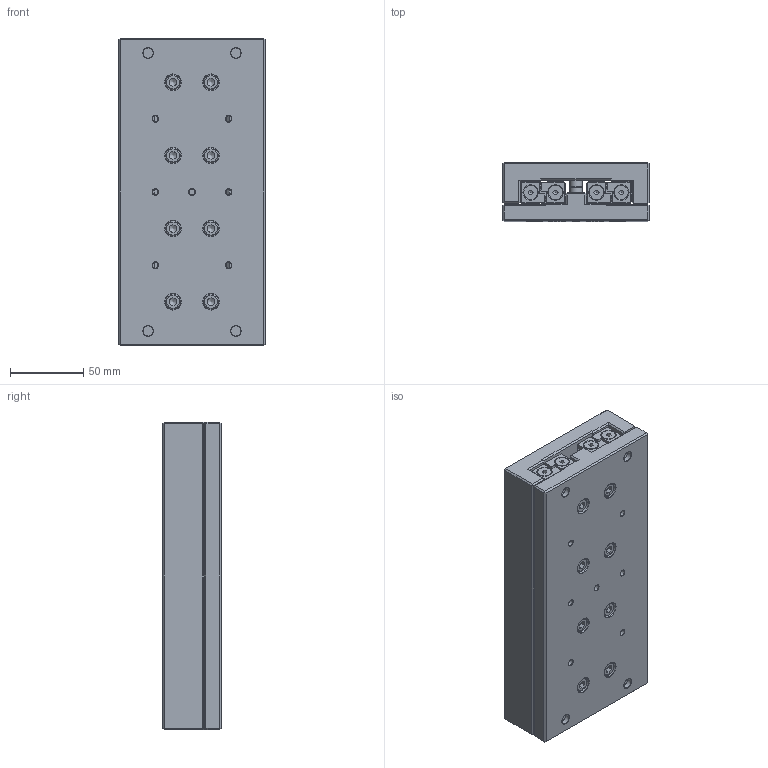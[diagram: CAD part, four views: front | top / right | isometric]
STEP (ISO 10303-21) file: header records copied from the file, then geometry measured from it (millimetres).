
FILE_DESCRIPTION(/* description */ ('Tavola TRL06 L=210 mm'),/* implementation_level */ '2;1');
FILE_NAME(/* name */ 'TRL060210-00.stp',/* time_stamp */ '2024-02-07T08:55:51+01:00',/* author */ ('Rosa sistemi'),/* organization */ (''),/* preprocessor_version */ 'ST-DEVELOPER v20',/* originating_system */ 'Autodesk Inventor 2024',/* authorisation */ '');
FILE_SCHEMA (('AUTOMOTIVE_DESIGN { 1 0 10303 214 3 1 1 }'));
Products named in the file (2): TRL060210-00; TRL060210-00_1
Assembly tree (1 placements, depth 2):
  TRL060210-00
    TRL060210-00_1
Bounding box: 100 x 40 x 210 mm (x, y, z)
Volume: 754342.7 mm3; surface area: 158359.7 mm2
Topology: 8 solids, 8 shells, 1641 faces, 4303 edges, 2790 vertices
Faces by surface type: plane 1056, cylinder 207, bspline 196, cone 143, torus 39
Full cylindrical faces by diameter (mm): 1.548 x5, 4.134 x23, 4.256 x5, 6 x18, 7 x4, 8.5 x3, 9.5 x16, 9.64 x8, 10 x16, 11 x20
Entity records: 51974 total; most frequent: CARTESIAN_POINT 11728, ORIENTED_EDGE 8544, DIRECTION 7386, EDGE_CURVE 4272, LINE 2796, VECTOR 2796, VERTEX_POINT 2790, AXIS2_PLACEMENT_3D 2295
